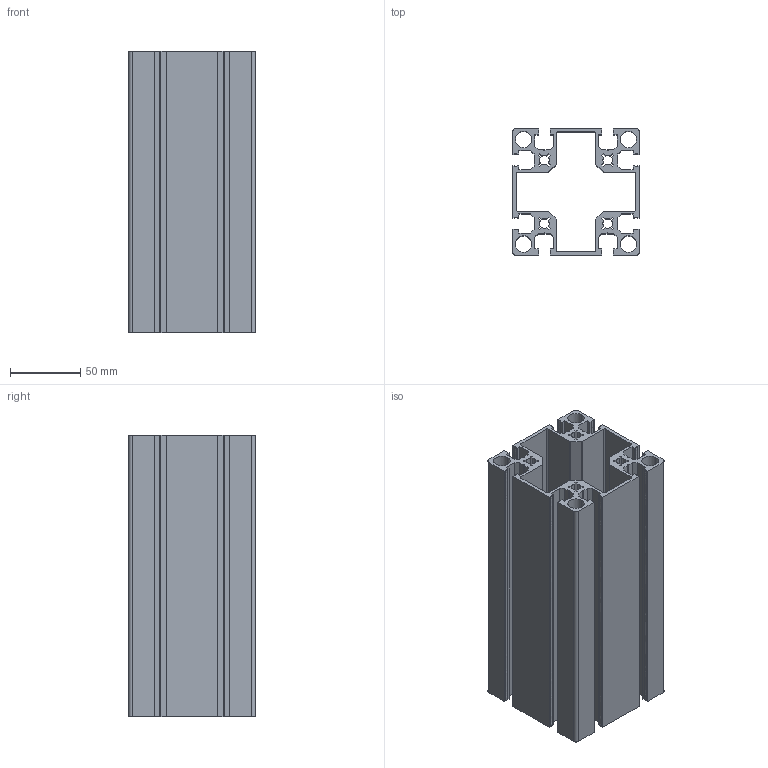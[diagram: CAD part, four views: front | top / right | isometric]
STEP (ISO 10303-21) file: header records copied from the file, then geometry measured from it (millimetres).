
FILE_DESCRIPTION (( 'STEP AP203' ), '1' );
FILE_NAME ('006512 REF 9090L.STEP', '2015-12-01T11:53:47', ( '' ), ( '' ), 'SwSTEP 2.0', 'SolidWorks 2015', '' );
FILE_SCHEMA (( 'CONFIG_CONTROL_DESIGN' ));
Length unit declared in the file: millimetre
Products named in the file (1): 006512 REF 9090L
Bounding box: 90 x 90 x 200 mm (x, y, z)
Volume: 409414.2 mm3; surface area: 262886.9 mm2
Topology: 1 solids, 1 shells, 264 faces, 786 edges, 524 vertices
Faces by surface type: plane 174, cylinder 74, bspline 16
Entity records: 9043 total; most frequent: CARTESIAN_POINT 1847, ORIENTED_EDGE 1572, DIRECTION 1400, EDGE_CURVE 786, VECTOR 606, LINE 606, VERTEX_POINT 524, AXIS2_PLACEMENT_3D 397
